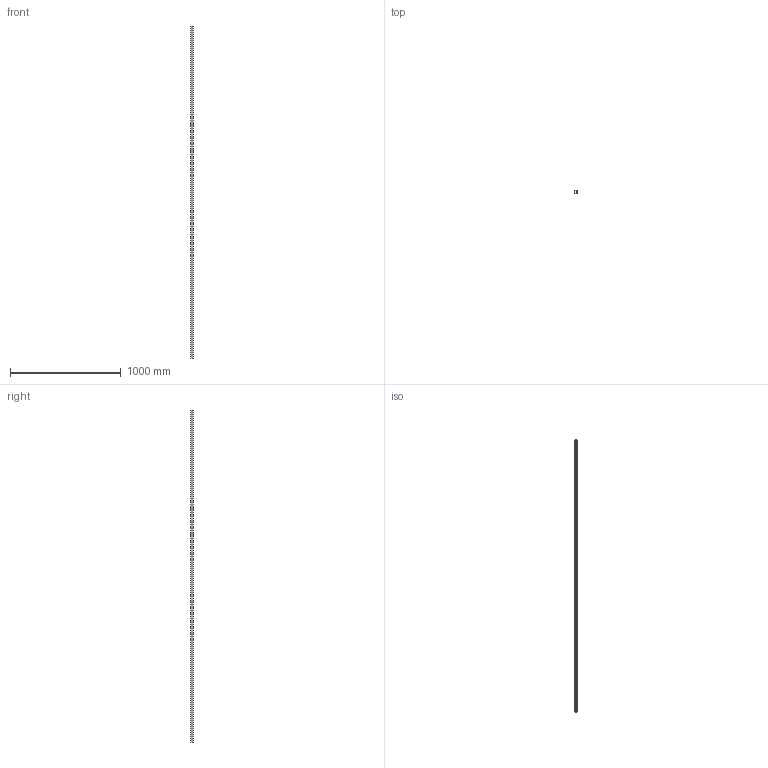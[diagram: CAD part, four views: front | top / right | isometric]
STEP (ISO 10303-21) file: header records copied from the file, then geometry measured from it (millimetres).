
FILE_DESCRIPTION (( 'STEP AP214' ), '1' );
FILE_NAME ('7641515.STEP', '2024-01-25T10:52:32', ( '' ), ( '' ), 'SwSTEP 2.0', 'SolidWorks 2022', '' );
FILE_SCHEMA (( 'AUTOMOTIVE_DESIGN' ));
Length unit declared in the file: millimetre
Products named in the file (1): 7641515
Bounding box: 25 x 25 x 3000 mm (x, y, z)
Volume: 405617.3 mm3; surface area: 541093.4 mm2
Topology: 1 solids, 1 shells, 18 faces, 48 edges, 32 vertices
Faces by surface type: plane 10, cylinder 8
Entity records: 606 total; most frequent: DIRECTION 102, CARTESIAN_POINT 99, ORIENTED_EDGE 96, EDGE_CURVE 48, AXIS2_PLACEMENT_3D 35, LINE 32, VECTOR 32, VERTEX_POINT 32
